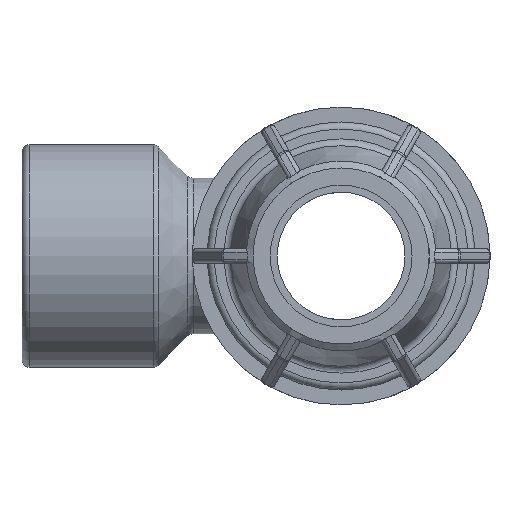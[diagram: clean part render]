
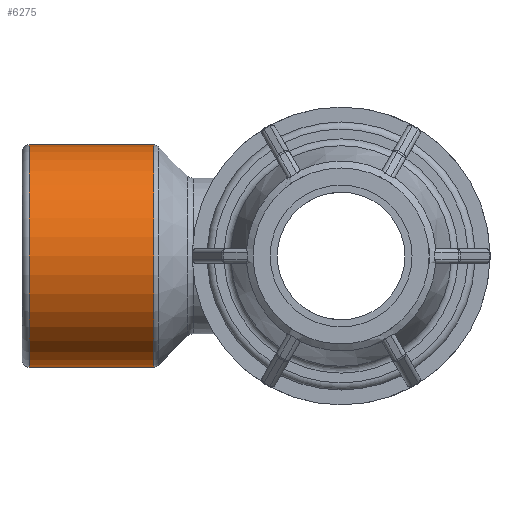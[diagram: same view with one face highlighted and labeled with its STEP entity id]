
A CAD part, left-side view. The second image highlights one B-rep face of the part: STEP entity #6275.
In plain terms, the highlighted cylindrical face has radius 15.676 mm (diameter 31.352 mm), a full revolution.
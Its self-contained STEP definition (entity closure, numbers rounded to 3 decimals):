
#1262=FACE_BOUND('',#2115,.T.);
#1672=FACE_OUTER_BOUND('',#2114,.T.);
#2114=EDGE_LOOP('',(#5734));
#2115=EDGE_LOOP('',(#5735));
#2467=CIRCLE('',#7026,15.676);
#2469=CIRCLE('',#7029,15.676);
#3007=VERTEX_POINT('',#11984);
#3009=VERTEX_POINT('',#11989);
#3919=EDGE_CURVE('',#3007,#3007,#2467,.T.);
#3921=EDGE_CURVE('',#3009,#3009,#2469,.T.);
#5734=ORIENTED_EDGE('',*,*,#3921,.F.);
#5735=ORIENTED_EDGE('',*,*,#3919,.F.);
#5870=CYLINDRICAL_SURFACE('',#7028,15.676);
#6275=ADVANCED_FACE('',(#1672,#1262),#5870,.T.);
#7026=AXIS2_PLACEMENT_3D('',#11985,#8886,#8887);
#7028=AXIS2_PLACEMENT_3D('',#11988,#8890,#8891);
#7029=AXIS2_PLACEMENT_3D('',#11990,#8892,#8893);
#8886=DIRECTION('center_axis',(0.,1.,0.));
#8887=DIRECTION('ref_axis',(1.,0.,0.));
#8890=DIRECTION('center_axis',(0.,1.,0.));
#8891=DIRECTION('ref_axis',(-1.,0.,0.));
#8892=DIRECTION('center_axis',(0.,-1.,0.));
#8893=DIRECTION('ref_axis',(1.,0.,0.));
#11984=CARTESIAN_POINT('',(-15.676,44.,0.));
#11985=CARTESIAN_POINT('Origin',(0.,44.,0.));
#11988=CARTESIAN_POINT('Origin',(0.,35.5,0.));
#11989=CARTESIAN_POINT('',(-15.676,26.414,0.));
#11990=CARTESIAN_POINT('Origin',(0.,26.414,0.));
